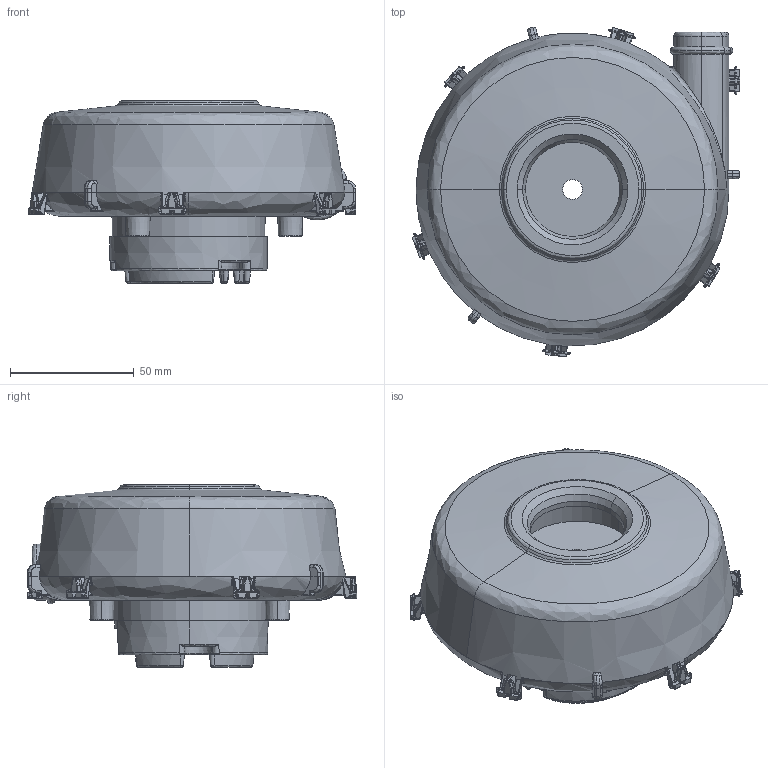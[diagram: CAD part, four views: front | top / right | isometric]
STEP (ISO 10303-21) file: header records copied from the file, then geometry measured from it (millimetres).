
FILE_DESCRIPTION (( 'STEP AP214' ), '1' );
FILE_NAME ('130迾ヶ裔-02.STEP', '2020-12-08T10:50:31', ( 'Minaco' ), ( 'CHNGroup' ), 'SwSTEP 2.0', 'SolidWorks 2013', '' );
FILE_SCHEMA (( 'AUTOMOTIVE_DESIGN' ));
Length unit declared in the file: millimetre
Products named in the file (1): 130迾ヶ裔-02
Bounding box: 131.98 x 132.92 x 73.6 mm (x, y, z)
Volume: 225943.2 mm3; surface area: 137176.4 mm2
Topology: 10 solids, 10 shells, 2333 faces, 5847 edges, 3504 vertices
Faces by surface type: bspline 908, cylinder 676, plane 468, cone 224, torus 57
Entity records: 117089 total; most frequent: CARTESIAN_POINT 41000, ORIENTED_EDGE 11572, DIRECTION 9610, EDGE_CURVE 5786, AXIS2_PLACEMENT_3D 3912, VERTEX_POINT 3504, CIRCLE 2486, EDGE_LOOP 2384
